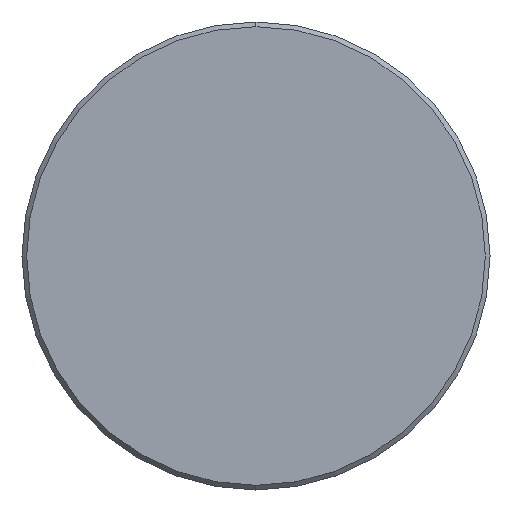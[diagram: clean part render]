
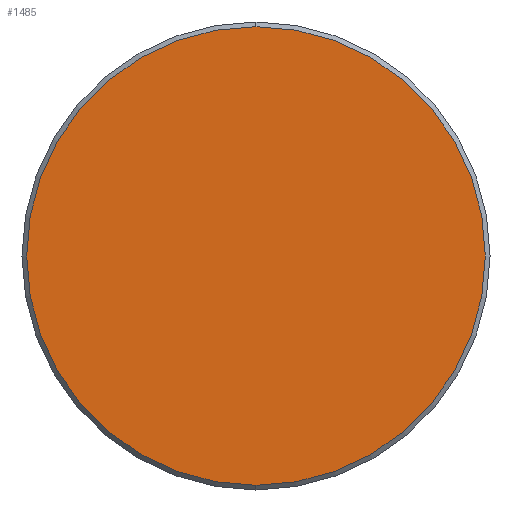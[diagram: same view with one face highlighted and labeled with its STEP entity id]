
A CAD part, left-side view. The second image highlights one B-rep face of the part: STEP entity #1485.
In plain terms, the highlighted planar face has unit normal (-1, 0, 0).
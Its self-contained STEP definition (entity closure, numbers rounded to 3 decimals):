
#139 = EDGE_LOOP ( 'NONE', ( #1209, #1432 ) ) ;
#191 = DIRECTION ( 'NONE',  ( 0., 0., -1. ) ) ;
#193 = AXIS2_PLACEMENT_3D ( 'NONE', #876, #1247, #191 ) ;
#219 = EDGE_CURVE ( 'NONE', #1022, #1535, #230, .T. ) ;
#230 = CIRCLE ( 'NONE', #594, 14.7 ) ;
#276 = CARTESIAN_POINT ( 'NONE',  ( -2., 0., 14.7 ) ) ;
#496 = CARTESIAN_POINT ( 'NONE',  ( -2., 13., 0. ) ) ;
#584 = CIRCLE ( 'NONE', #193, 14.7 ) ;
#594 = AXIS2_PLACEMENT_3D ( 'NONE', #1500, #762, #1014 ) ;
#762 = DIRECTION ( 'NONE',  ( -1., 0., 0. ) ) ;
#823 = DIRECTION ( 'NONE',  ( 0., 0., -1. ) ) ;
#856 = CARTESIAN_POINT ( 'NONE',  ( -2., 0., -14.7 ) ) ;
#876 = CARTESIAN_POINT ( 'NONE',  ( -2., 0., 0. ) ) ;
#938 = EDGE_CURVE ( 'NONE', #1535, #1022, #584, .T. ) ;
#1014 = DIRECTION ( 'NONE',  ( 0., 0., -1. ) ) ;
#1022 = VERTEX_POINT ( 'NONE', #856 ) ;
#1199 = PLANE ( 'NONE',  #1282 ) ;
#1209 = ORIENTED_EDGE ( 'NONE', *, *, #219, .T. ) ;
#1247 = DIRECTION ( 'NONE',  ( -1., 0., 0. ) ) ;
#1278 = FACE_OUTER_BOUND ( 'NONE', #139, .T. ) ;
#1282 = AXIS2_PLACEMENT_3D ( 'NONE', #496, #1451, #823 ) ;
#1432 = ORIENTED_EDGE ( 'NONE', *, *, #938, .T. ) ;
#1451 = DIRECTION ( 'NONE',  ( 1., 0., 0. ) ) ;
#1485 = ADVANCED_FACE ( 'NONE', ( #1278 ), #1199, .F. ) ;
#1500 = CARTESIAN_POINT ( 'NONE',  ( -2., 0., 0. ) ) ;
#1535 = VERTEX_POINT ( 'NONE', #276 ) ;
